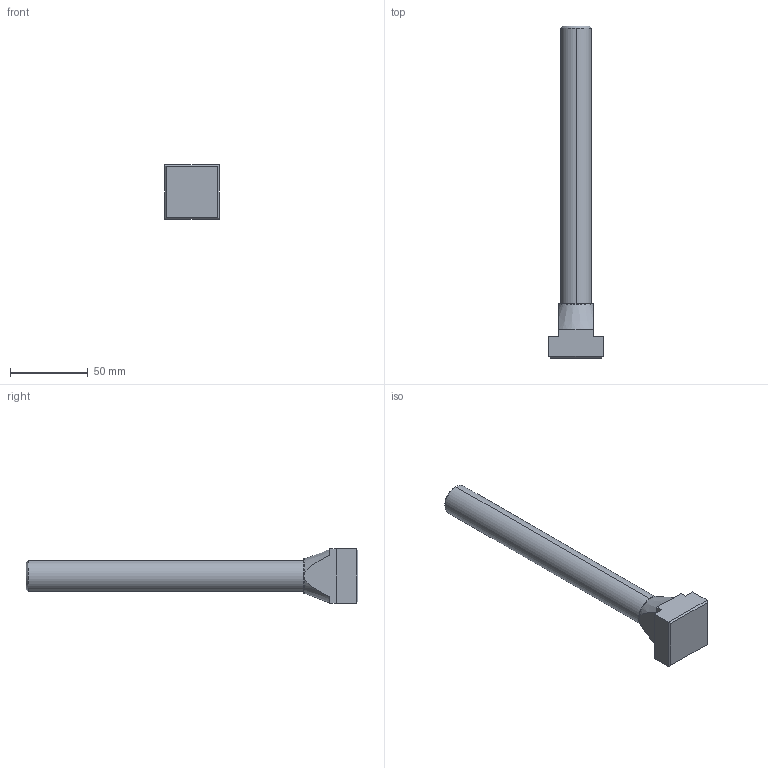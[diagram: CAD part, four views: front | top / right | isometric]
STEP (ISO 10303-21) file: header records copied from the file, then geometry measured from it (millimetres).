
FILE_DESCRIPTION (( 'STEP AP203' ), '1' );
FILE_NAME ('Wiberger-din787_22-m20x200.step', '2016-07-01T13:16:47', ( 'Magnus' ), ( 'Microsoft' ), 'SwSTEP 2.0', 'SolidWorks 2016', '' );
FILE_SCHEMA (( 'CONFIG_CONTROL_DESIGN' ));
Length unit declared in the file: millimetre
Products named in the file (1): Wiberger-din787_22-m20x200
Bounding box: 35 x 214 x 35 mm (x, y, z)
Volume: 85710 mm3; surface area: 17165.6 mm2
Topology: 1 solids, 1 shells, 27 faces, 66 edges, 42 vertices
Faces by surface type: plane 17, cone 5, cylinder 5
Entity records: 941 total; most frequent: CARTESIAN_POINT 228, ORIENTED_EDGE 132, DIRECTION 130, EDGE_CURVE 66, AXIS2_PLACEMENT_3D 44, LINE 42, VERTEX_POINT 42, VECTOR 42
